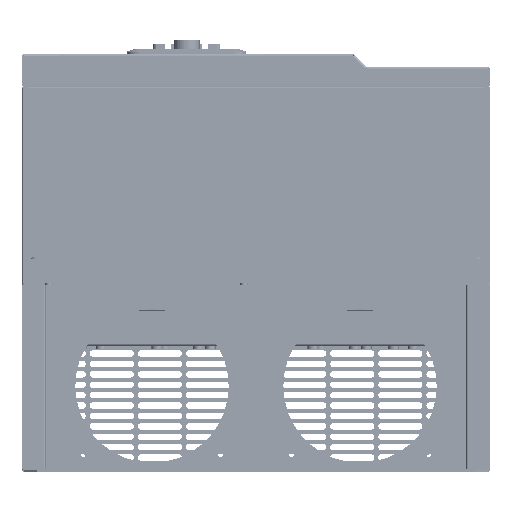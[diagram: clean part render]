
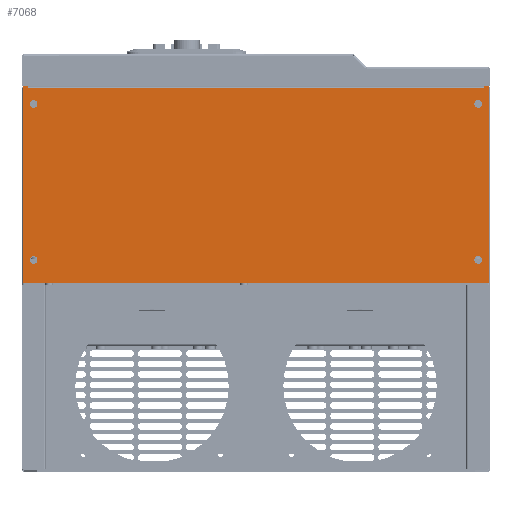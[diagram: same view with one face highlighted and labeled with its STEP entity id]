
A CAD part, front view. The second image highlights one B-rep face of the part: STEP entity #7068.
In plain terms, the highlighted planar face has unit normal (0, -1, 0) as drawn and (0, 0, 1) by its records, which use the part's own axes.
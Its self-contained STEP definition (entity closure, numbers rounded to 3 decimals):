
#7068=ADVANCED_FACE('',(#36146,#36148,#36150,#36152,#36154),#36156,.T.);
#36146=FACE_BOUND('',#36147,.T.);
#36147=EDGE_LOOP('',(#66248,#66249,#66250,#66251,#66252,#66253,#66254,#66255));
#36148=FACE_BOUND('',#36149,.T.);
#36149=EDGE_LOOP('',(#66256));
#36150=FACE_BOUND('',#36151,.T.);
#36151=EDGE_LOOP('',(#66257));
#36152=FACE_BOUND('',#36153,.T.);
#36153=EDGE_LOOP('',(#66258));
#36154=FACE_BOUND('',#36155,.T.);
#36155=EDGE_LOOP('',(#66259));
#36156=PLANE('',#36157);
#36157=AXIS2_PLACEMENT_3D('',#36158,#36159,#36160);
#36158=CARTESIAN_POINT('',(0.,0.,0.));
#36159=DIRECTION('',(0.,0.,1.));
#36160=DIRECTION('',(-1.,0.,0.));
#66248=ORIENTED_EDGE('',*,*,#84559,.T.);
#66249=ORIENTED_EDGE('',*,*,#84556,.F.);
#66250=ORIENTED_EDGE('',*,*,#84554,.F.);
#66251=ORIENTED_EDGE('',*,*,#84552,.F.);
#66252=ORIENTED_EDGE('',*,*,#84550,.F.);
#66253=ORIENTED_EDGE('',*,*,#84548,.F.);
#66254=ORIENTED_EDGE('',*,*,#84563,.F.);
#66255=ORIENTED_EDGE('',*,*,#84562,.F.);
#66256=ORIENTED_EDGE('',*,*,#84564,.F.);
#66257=ORIENTED_EDGE('',*,*,#84565,.F.);
#66258=ORIENTED_EDGE('',*,*,#84566,.F.);
#66259=ORIENTED_EDGE('',*,*,#84567,.F.);
#84548=EDGE_CURVE('',#95690,#95692,#95693,.T.);
#84550=EDGE_CURVE('',#95692,#95695,#95696,.T.);
#84552=EDGE_CURVE('',#95695,#95698,#95699,.T.);
#84554=EDGE_CURVE('',#95698,#95701,#95702,.T.);
#84556=EDGE_CURVE('',#95701,#95704,#95705,.T.);
#84559=EDGE_CURVE('',#95708,#95704,#95709,.T.);
#84562=EDGE_CURVE('',#95708,#95711,#95713,.T.);
#84563=EDGE_CURVE('',#95711,#95690,#95714,.T.);
#84564=EDGE_CURVE('',#95715,#95715,#95716,.T.);
#84565=EDGE_CURVE('',#95717,#95717,#95718,.T.);
#84566=EDGE_CURVE('',#95719,#95719,#95720,.T.);
#84567=EDGE_CURVE('',#95721,#95721,#95722,.T.);
#95690=VERTEX_POINT('',#117346);
#95692=VERTEX_POINT('',#117350);
#95693=LINE('',#117351,#117352);
#95695=VERTEX_POINT('',#117357);
#95696=LINE('',#117358,#117359);
#95698=VERTEX_POINT('',#117364);
#95699=LINE('',#117365,#117366);
#95701=VERTEX_POINT('',#117371);
#95702=LINE('',#117372,#117373);
#95704=VERTEX_POINT('',#117381);
#95705=LINE('',#117382,#117383);
#95708=VERTEX_POINT('',#117417);
#95709=LINE('',#117418,#117419);
#95711=VERTEX_POINT('',#117447);
#95713=LINE('',#117451,#117452);
#95714=LINE('',#117454,#117455);
#95715=VERTEX_POINT('',#117457);
#95716=CIRCLE('',#117458,3.);
#95717=VERTEX_POINT('',#117462);
#95718=CIRCLE('',#117463,3.);
#95719=VERTEX_POINT('',#117467);
#95720=CIRCLE('',#117468,3.);
#95721=VERTEX_POINT('',#117472);
#95722=CIRCLE('',#117473,3.);
#117346=CARTESIAN_POINT('',(179.5,75.75,0.));
#117350=CARTESIAN_POINT('',(179.5,-75.75,0.));
#117351=CARTESIAN_POINT('',(179.5,75.75,0.));
#117352=VECTOR('',#117353,1.);
#117353=DIRECTION('',(0.,-1.,0.));
#117357=CARTESIAN_POINT('',(-179.5,-75.75,0.));
#117358=CARTESIAN_POINT('',(179.5,-75.75,0.));
#117359=VECTOR('',#117360,1.);
#117360=DIRECTION('',(-1.,0.,0.));
#117364=CARTESIAN_POINT('',(-179.5,75.75,0.));
#117365=CARTESIAN_POINT('',(-179.5,-75.75,0.));
#117366=VECTOR('',#117367,1.);
#117367=DIRECTION('',(0.,1.,0.));
#117371=CARTESIAN_POINT('',(-175.5,75.75,0.));
#117372=CARTESIAN_POINT('',(-179.5,75.75,0.));
#117373=VECTOR('',#117374,1.);
#117374=DIRECTION('',(1.,0.,0.));
#117381=CARTESIAN_POINT('',(-175.5,74.45,0.));
#117382=CARTESIAN_POINT('',(-175.5,75.75,0.));
#117383=VECTOR('',#117384,1.);
#117384=DIRECTION('',(0.,-1.,0.));
#117417=CARTESIAN_POINT('',(175.5,74.45,0.));
#117418=CARTESIAN_POINT('',(175.5,74.45,0.));
#117419=VECTOR('',#117420,1.);
#117420=DIRECTION('',(-1.,0.,0.));
#117447=CARTESIAN_POINT('',(175.5,75.75,0.));
#117451=CARTESIAN_POINT('',(175.5,74.45,0.));
#117452=VECTOR('',#117453,1.);
#117453=DIRECTION('',(0.,1.,0.));
#117454=CARTESIAN_POINT('',(175.5,75.75,0.));
#117455=VECTOR('',#117456,1.);
#117456=DIRECTION('',(1.,0.,0.));
#117457=CARTESIAN_POINT('',(168.,62.25,0.));
#117458=AXIS2_PLACEMENT_3D('',#117459,#117460,#117461);
#117459=CARTESIAN_POINT('',(171.,62.25,0.));
#117460=DIRECTION('',(0.,0.,1.));
#117461=DIRECTION('',(-1.,0.,0.));
#117462=CARTESIAN_POINT('',(-174.,62.25,0.));
#117463=AXIS2_PLACEMENT_3D('',#117464,#117465,#117466);
#117464=CARTESIAN_POINT('',(-171.,62.25,0.));
#117465=DIRECTION('',(0.,0.,1.));
#117466=DIRECTION('',(-1.,0.,0.));
#117467=CARTESIAN_POINT('',(168.,-57.75,0.));
#117468=AXIS2_PLACEMENT_3D('',#117469,#117470,#117471);
#117469=CARTESIAN_POINT('',(171.,-57.75,0.));
#117470=DIRECTION('',(0.,0.,1.));
#117471=DIRECTION('',(-1.,0.,0.));
#117472=CARTESIAN_POINT('',(-174.,-57.75,0.));
#117473=AXIS2_PLACEMENT_3D('',#117474,#117475,#117476);
#117474=CARTESIAN_POINT('',(-171.,-57.75,0.));
#117475=DIRECTION('',(0.,0.,1.));
#117476=DIRECTION('',(-1.,0.,0.));
